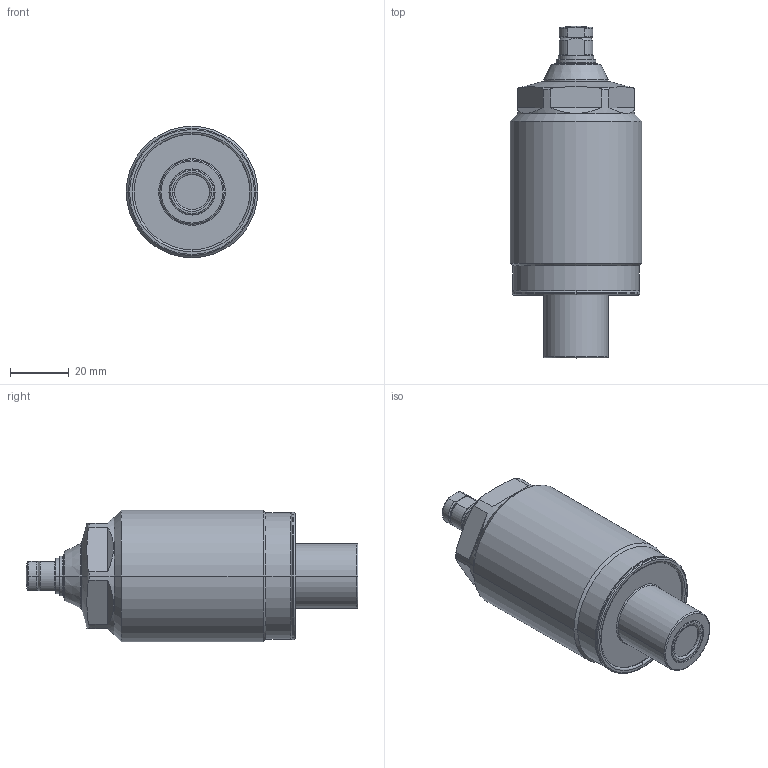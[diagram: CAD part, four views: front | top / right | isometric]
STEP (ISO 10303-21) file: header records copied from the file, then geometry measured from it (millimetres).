
FILE_DESCRIPTION(/* description */ (''),/* implementation_level */ '2;1');
FILE_NAME(/* name */ 'TNL45-Q.stp',/* time_stamp */ '2024-01-16T09:20:56+08:00',/* author */ (''),/* organization */ (''),/* preprocessor_version */ 'ST-DEVELOPER v16.7',/* originating_system */ 'SIEMENS PLM Software NX 12.0',/* authorisation */ '');
FILE_SCHEMA (('AP203_CONFIGURATION_CONTROLLED_3D_DESIGN_OF_MECHANICAL_PARTS_AND_ASSEMBLIES_MIM_LF { 1 0 10303 403 2 1 2}'));
Length unit declared in the file: millimetre
Products named in the file (7): XLD-M8_contactbolt; XLD-M8_Oring; TNL45-Q-3; TNL45-Q-2; TNL45-Q-1; TNL45-Q-4; WNC3003-Q_step
Assembly tree (6 placements, depth 3):
  WNC3003-Q_step
    TNL45-Q-1
    TNL45-Q-2
    TNL45-Q-3
    TNL45-Q-4
      XLD-M8_Oring
      XLD-M8_contactbolt
Bounding box: 45 x 113.5 x 45 mm (x, y, z)
Volume: 117936.1 mm3; surface area: 17996 mm2
Topology: 5 solids, 5 shells, 160 faces, 352 edges, 212 vertices
Faces by surface type: torus 55, cylinder 44, plane 37, cone 22, sphere 2
Entity records: 5544 total; most frequent: CARTESIAN_POINT 1119, DIRECTION 870, ORIENTED_EDGE 704, AXIS2_PLACEMENT_3D 389, EDGE_CURVE 352, CIRCLE 222, VERTEX_POINT 212, EDGE_LOOP 176
